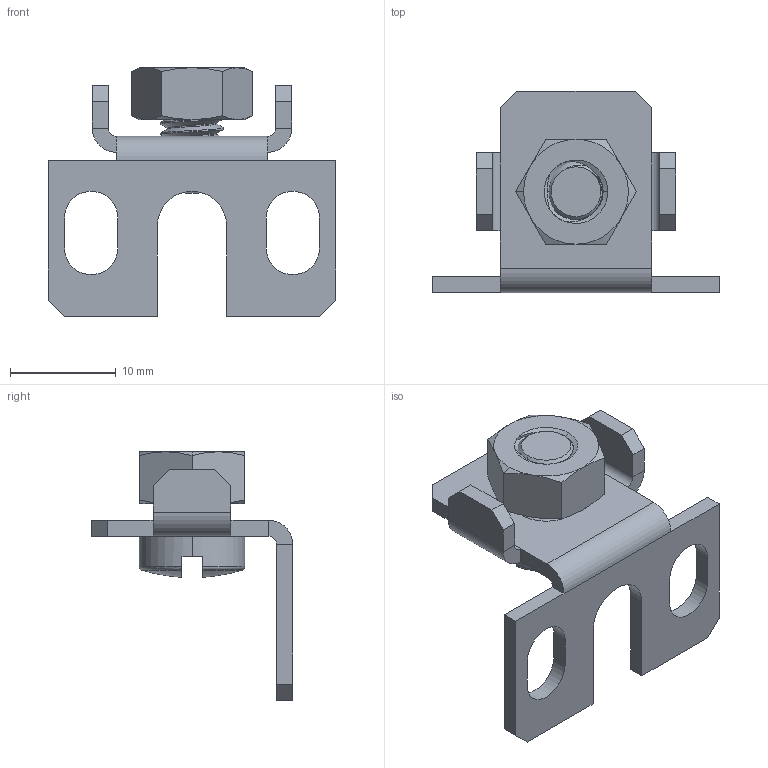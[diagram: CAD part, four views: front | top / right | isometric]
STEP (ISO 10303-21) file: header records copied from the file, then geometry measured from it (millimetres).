
FILE_DESCRIPTION (( 'STEP AP214' ), '1' );
FILE_NAME ('LB111 Mounting Bracket.STEP', '2025-02-06T21:56:45', ( '' ), ( '' ), 'SwSTEP 2.0', 'SolidWorks 2023', '' );
FILE_SCHEMA (( 'AUTOMOTIVE_DESIGN' ));
Length unit declared in the file: inch
Products named in the file (4): 099052; CHM6x8_91460A312; HN-M6_90592A016; LB111 Mounting Bracket
Assembly tree (3 placements, depth 2):
  LB111 Mounting Bracket
    099052
    CHM6x8_91460A312
    HN-M6_90592A016
Bounding box: 27.18 x 19.05 x 23.49 mm (x, y, z)
Volume: 1610 mm3; surface area: 2432.1 mm2
Topology: 3 solids, 3 shells, 191 faces, 471 edges, 287 vertices
Faces by surface type: cylinder 81, plane 58, cone 42, sphere 4, bspline 4, torus 2
Entity records: 7191 total; most frequent: CARTESIAN_POINT 2878, ORIENTED_EDGE 942, DIRECTION 808, EDGE_CURVE 471, AXIS2_PLACEMENT_3D 296, VERTEX_POINT 287, VECTOR 216, LINE 216
